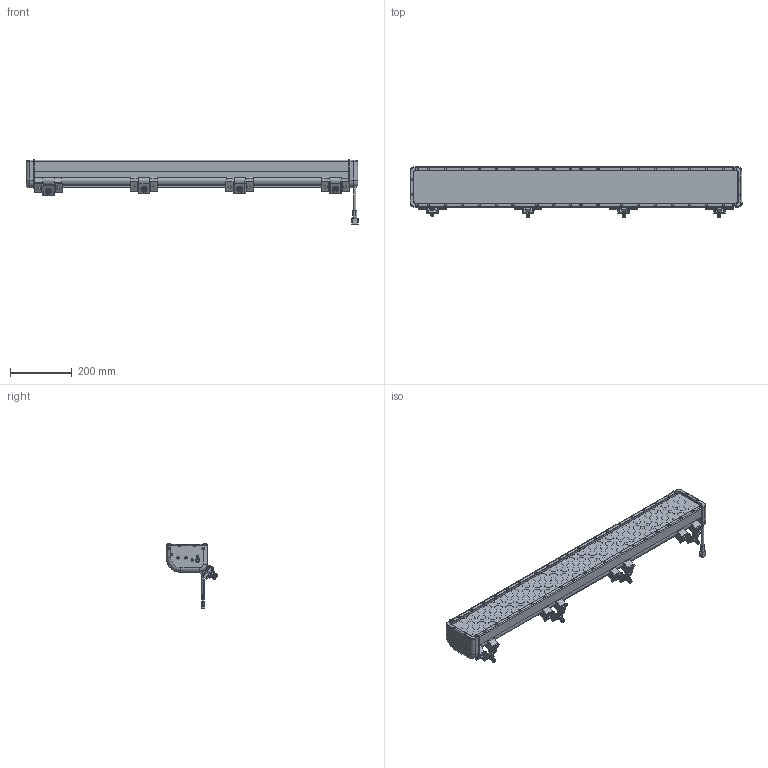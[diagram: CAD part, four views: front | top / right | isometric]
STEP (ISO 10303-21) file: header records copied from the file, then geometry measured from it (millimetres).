
FILE_DESCRIPTION (( 'STEP AP203' ), '1' );
FILE_NAME ('LEDLB-160X2E-IR.STEP', '2017-04-03T18:36:52', ( '' ), ( '' ), 'SwSTEP 2.0', 'SolidWorks 2016', '' );
FILE_SCHEMA (( 'CONFIG_CONTROL_DESIGN' ));
Length unit declared in the file: inch
Products named in the file (1): LEDLB-160X2E-IR
Bounding box: 1074.37 x 165.99 x 207.26 mm (x, y, z)
Surface area: 1395499.8 mm2 (no closed solid volume)
Topology: 0 solids, 27 shells, 2090 faces, 4815 edges, 3022 vertices
Faces by surface type: plane 772, cylinder 594, cone 360, torus 332, bspline 32
Entity records: 62545 total; most frequent: CARTESIAN_POINT 13866, DIRECTION 10980, ORIENTED_EDGE 9502, EDGE_CURVE 4815, AXIS2_PLACEMENT_3D 4422, VERTEX_POINT 3022, EDGE_LOOP 2389, CIRCLE 2363
